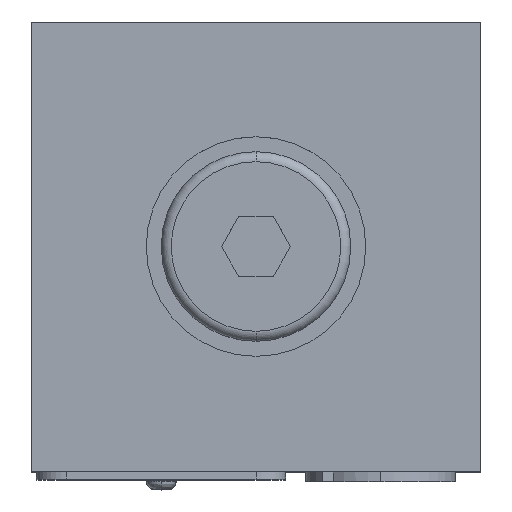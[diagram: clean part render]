
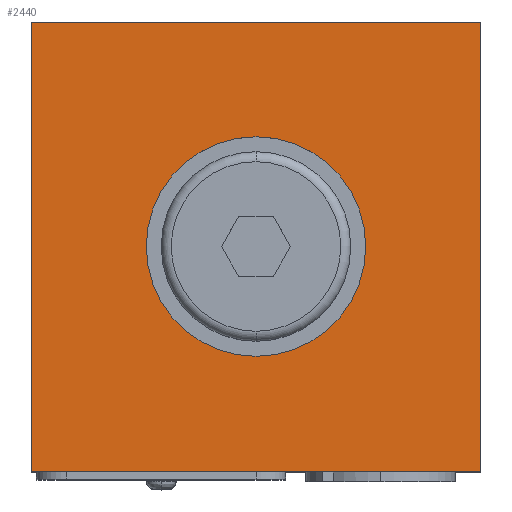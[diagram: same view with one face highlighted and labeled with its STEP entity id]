
A CAD part, top view. The second image highlights one B-rep face of the part: STEP entity #2440.
In plain terms, the highlighted planar face has unit normal (0, 0, 1).
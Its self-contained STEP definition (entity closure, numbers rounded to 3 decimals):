
#193=DIRECTION('',(-1.,0.,0.));
#194=VECTOR('',#193,45.);
#195=CARTESIAN_POINT('',(22.5,-22.5,75.));
#196=LINE('',#195,#194);
#197=DIRECTION('',(0.,1.,0.));
#198=VECTOR('',#197,45.);
#199=CARTESIAN_POINT('',(-22.5,-22.5,75.));
#200=LINE('',#199,#198);
#201=DIRECTION('',(1.,0.,0.));
#202=VECTOR('',#201,45.);
#203=CARTESIAN_POINT('',(-22.5,22.5,75.));
#204=LINE('',#203,#202);
#205=DIRECTION('',(0.,-1.,0.));
#206=VECTOR('',#205,45.);
#207=CARTESIAN_POINT('',(22.5,22.5,75.));
#208=LINE('',#207,#206);
#209=CARTESIAN_POINT('',(0.,0.,75.));
#210=DIRECTION('',(0.,0.,1.));
#211=DIRECTION('',(-1.,0.,0.));
#212=AXIS2_PLACEMENT_3D('',#209,#210,#211);
#214=CARTESIAN_POINT('',(0.,0.,75.));
#215=DIRECTION('',(0.,0.,1.));
#216=DIRECTION('',(1.,0.,0.));
#217=AXIS2_PLACEMENT_3D('',#214,#215,#216);
#1905=CARTESIAN_POINT('',(22.5,-22.5,75.));
#1906=CARTESIAN_POINT('',(-22.5,-22.5,75.));
#1907=VERTEX_POINT('',#1905);
#1908=VERTEX_POINT('',#1906);
#1909=CARTESIAN_POINT('',(-22.5,22.5,75.));
#1910=VERTEX_POINT('',#1909);
#1911=CARTESIAN_POINT('',(22.5,22.5,75.));
#1912=VERTEX_POINT('',#1911);
#1913=CARTESIAN_POINT('',(-11.,0.,75.));
#1914=CARTESIAN_POINT('',(11.,0.,75.));
#1915=VERTEX_POINT('',#1913);
#1916=VERTEX_POINT('',#1914);
#2423=CARTESIAN_POINT('',(0.,0.,75.));
#2424=DIRECTION('',(0.,0.,1.));
#2425=DIRECTION('',(1.,0.,0.));
#2426=AXIS2_PLACEMENT_3D('',#2423,#2424,#2425);
#2427=PLANE('',#2426);
#2428=ORIENTED_EDGE('',*,*,#2279,.T.);
#2429=ORIENTED_EDGE('',*,*,#2318,.T.);
#2430=ORIENTED_EDGE('',*,*,#2356,.T.);
#2431=ORIENTED_EDGE('',*,*,#2369,.T.);
#2432=EDGE_LOOP('',(#2428,#2429,#2430,#2431));
#2433=FACE_OUTER_BOUND('',#2432,.F.);
#2435=ORIENTED_EDGE('',*,*,#2434,.T.);
#2437=ORIENTED_EDGE('',*,*,#2436,.T.);
#2438=EDGE_LOOP('',(#2435,#2437));
#2439=FACE_BOUND('',#2438,.F.);
#213=CIRCLE('',#212,11.);
#218=CIRCLE('',#217,11.);
#2279=EDGE_CURVE('',#1907,#1908,#196,.T.);
#2318=EDGE_CURVE('',#1908,#1910,#200,.T.);
#2356=EDGE_CURVE('',#1910,#1912,#204,.T.);
#2369=EDGE_CURVE('',#1912,#1907,#208,.T.);
#2434=EDGE_CURVE('',#1915,#1916,#213,.T.);
#2436=EDGE_CURVE('',#1916,#1915,#218,.T.);
#2440=ADVANCED_FACE('',(#2433,#2439),#2427,.T.);
